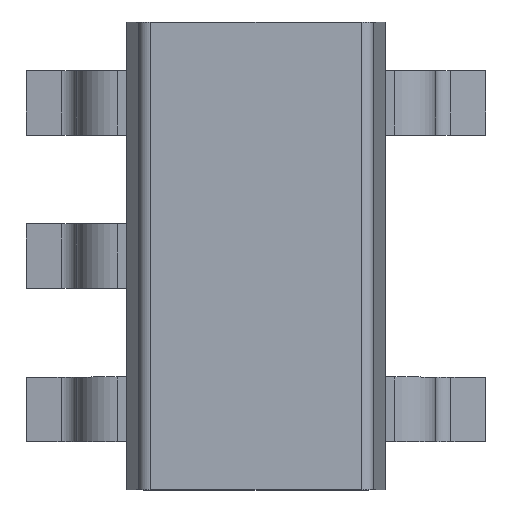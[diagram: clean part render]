
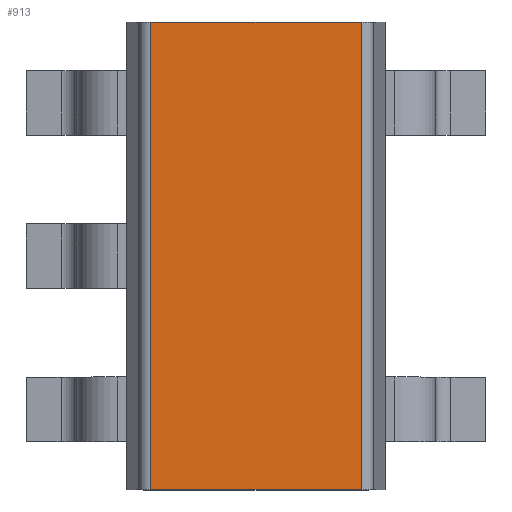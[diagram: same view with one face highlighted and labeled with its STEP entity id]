
A CAD part, top view. The second image highlights one B-rep face of the part: STEP entity #913.
In plain terms, the highlighted planar face has unit normal (0, 0, 1) as drawn and (0, 1, 0) by its records, which use the part's own axes.
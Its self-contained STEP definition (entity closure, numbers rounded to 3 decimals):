
#39=DIRECTION('',(0.,0.,1.));
#40=VECTOR('',#39,1.306);
#41=CARTESIAN_POINT('',(-1.45,0.65,-0.653));
#42=LINE('',#41,#40);
#47=DIRECTION('',(0.,0.,-1.));
#48=VECTOR('',#47,1.306);
#49=CARTESIAN_POINT('',(1.45,0.65,0.653));
#50=LINE('',#49,#48);
#96=DIRECTION('',(1.,0.,0.));
#97=VECTOR('',#96,2.9);
#98=CARTESIAN_POINT('',(-1.45,0.65,0.653));
#99=LINE('',#98,#97);
#168=DIRECTION('',(-1.,0.,0.));
#169=VECTOR('',#168,2.9);
#170=CARTESIAN_POINT('',(1.45,0.65,-0.653));
#171=LINE('',#170,#169);
#778=CARTESIAN_POINT('',(-1.45,0.65,0.653));
#779=CARTESIAN_POINT('',(1.45,0.65,0.653));
#780=VERTEX_POINT('',#778);
#781=VERTEX_POINT('',#779);
#786=CARTESIAN_POINT('',(1.45,0.65,-0.653));
#787=CARTESIAN_POINT('',(-1.45,0.65,-0.653));
#788=VERTEX_POINT('',#786);
#789=VERTEX_POINT('',#787);
#898=CARTESIAN_POINT('',(0.,0.65,0.));
#899=DIRECTION('',(0.,1.,0.));
#900=DIRECTION('',(1.,0.,0.));
#901=AXIS2_PLACEMENT_3D('',#898,#899,#900);
#902=PLANE('',#901);
#904=ORIENTED_EDGE('',*,*,#903,.F.);
#906=ORIENTED_EDGE('',*,*,#905,.F.);
#908=ORIENTED_EDGE('',*,*,#907,.F.);
#910=ORIENTED_EDGE('',*,*,#909,.F.);
#911=EDGE_LOOP('',(#904,#906,#908,#910));
#912=FACE_OUTER_BOUND('',#911,.F.);
#913=ADVANCED_FACE('',(#912),#902,.T.);
#903=EDGE_CURVE('',#789,#780,#42,.T.);
#905=EDGE_CURVE('',#788,#789,#171,.T.);
#907=EDGE_CURVE('',#781,#788,#50,.T.);
#909=EDGE_CURVE('',#780,#781,#99,.T.);
